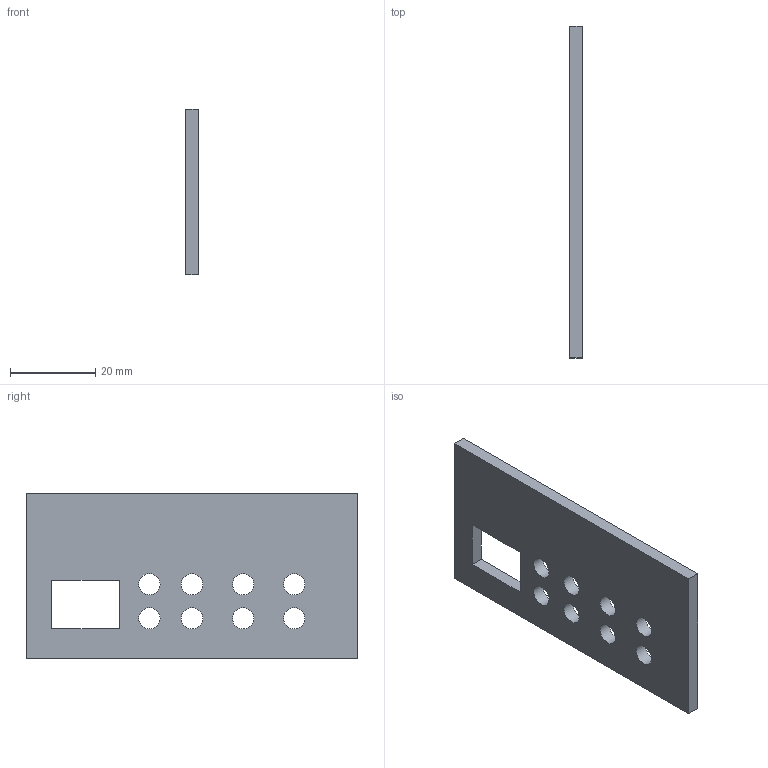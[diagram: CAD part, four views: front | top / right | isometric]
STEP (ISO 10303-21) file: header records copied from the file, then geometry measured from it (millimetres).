
FILE_DESCRIPTION(('Open CASCADE Model'),'2;1');
FILE_NAME('Open CASCADE Shape Model','2026-08-29T07:31:46',('Author'),( 'Open CASCADE'),'Open CASCADE STEP processor 7.9','build123d', 'Unknown');
FILE_SCHEMA(('AUTOMOTIVE_DESIGN { 1 0 10303 214 1 1 1 1 }'));
Length unit declared in the file: millimetre
Products named in the file (2): =>[0:1:1:2]; COMPOUND
Assembly tree (1 placements, depth 2):
  =>[0:1:1:2]
    COMPOUND
Bounding box: 3 x 77.9 x 38.76 mm (x, y, z)
Volume: 8028.2 mm3; surface area: 6600 mm2
Topology: 1 solids, 1 shells, 18 faces, 48 edges, 32 vertices
Faces by surface type: plane 10, cylinder 8
Full cylindrical faces by diameter (mm): 5 x8
Entity records: 1256 total; most frequent: DIRECTION 200, CARTESIAN_POINT 196, LINE 112, VECTOR 112, ORIENTED_EDGE 96, PCURVE 96, DEFINITIONAL_REPRESENTATION 96, EDGE_CURVE 48
